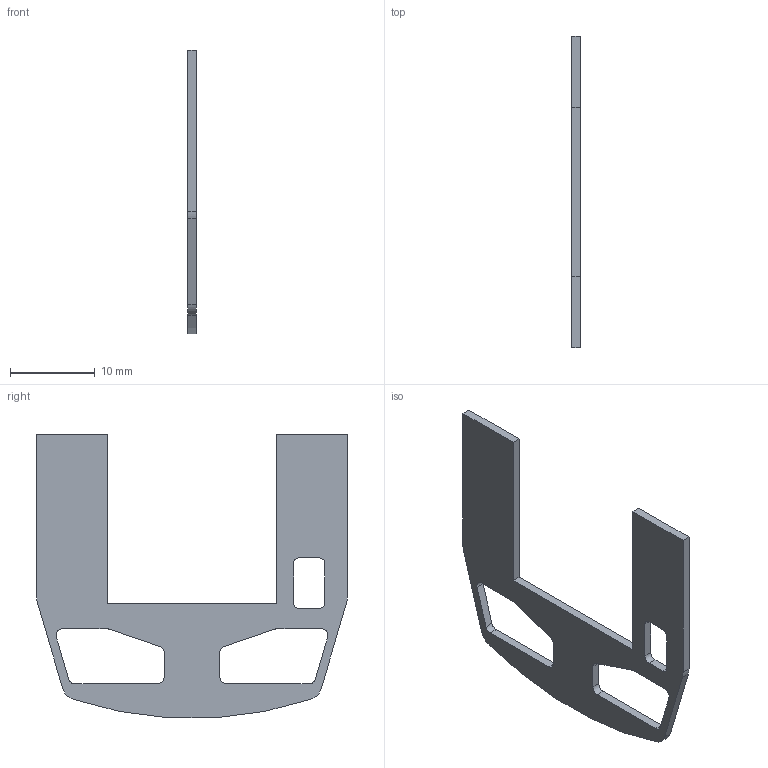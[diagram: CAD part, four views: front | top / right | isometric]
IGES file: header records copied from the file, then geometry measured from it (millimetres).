
Start section:  PTC IGES file: dv12hytti1.igs
Global section: file name: dv12hytti1.igs; native system: Pro/ENGINEER by Parametric Technology Corporation; preprocessor: 2004360; author: juha.telimaa; organization: Unknown; date: 060214.163541; units: millimetre
Bounding box: 1 x 36.8 x 33.51 mm (x, y, z)
Volume: 590.9 mm3; surface area: 1438.7 mm2
Topology: 1 solids, 1 shells, 44 faces, 130 edges, 88 vertices
Faces by surface type: bspline 25, revolution 19
